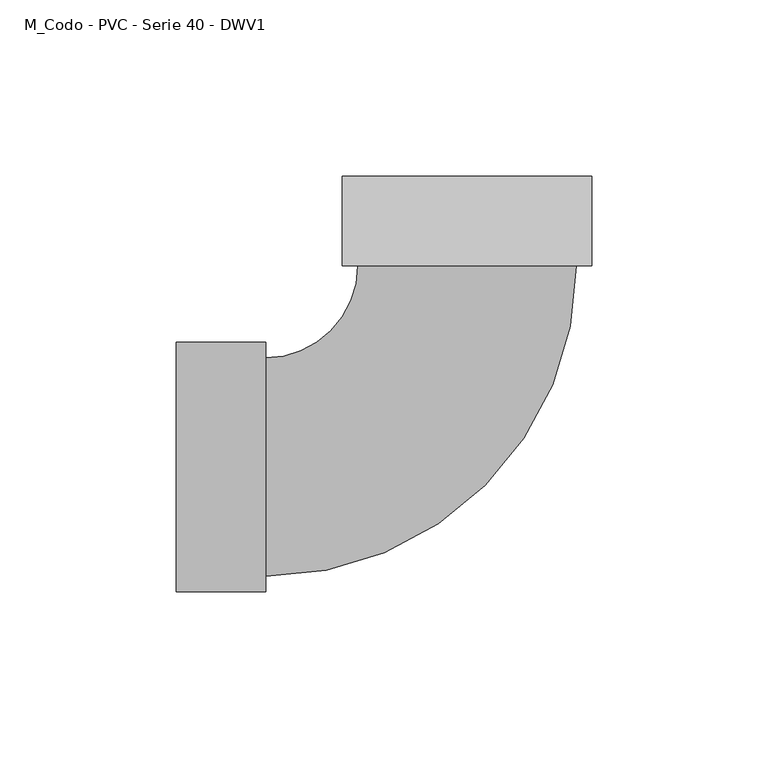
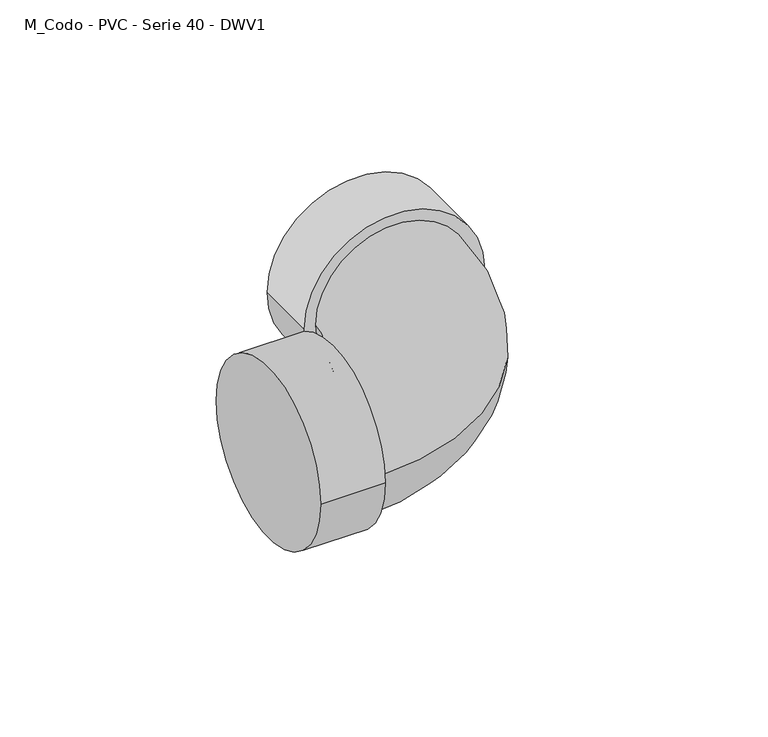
"""IFC4 building model written with IfcOpenShell, lengths in millimetres: pipe fitting geometry, M_Codo - PVC - Serie 40 - DWV1 : Estándar 2."""

from ifc_helpers import new_model, si_unit, point, frame, origin, place, context, project, spatial, circle_curve, ellipse_curve, trimmed, source, transform, mapped, element, save
from ifc_brep_helpers import plane_surface, cylinder_surface, revolved_surface, advanced_brep


def m_codo_pvc_serie_40_dwv1_5c0ec739(model_context):
    return source(origin(), model_context, "Body", "AdvancedBrep", [
        advanced_brep(
        [(-82.5420625, -35.4191094, 0.0), (-82.5420625, 35.4191094, 0.0), (-57.1420625, -35.4191094, 0.0), (-57.1420625, 35.4191094, 0.0), (-57.1420625, -30.9800625, 0.0), (-57.1420625, 30.9800625, 0.0), (-30.9800625, 57.1420625, 0.0), (30.9800625, 57.1420625, 0.0), (35.4191094, 57.1420625, 0.0), (-35.4191094, 57.1420625, 0.0), (35.4191094, 82.5420625, 0.0), (-35.4191094, 82.5420625, 0.0)],
        [
            (0, 1, circle_curve(frame((-82.5420625, 0.0, 0.0), z_axis=(-1.0, 0.0, 0.0), x_axis=(0.0, 1.0, 0.0)), 35.4191094)),
            (1, 0, circle_curve(frame((-82.5420625, 0.0, 0.0), z_axis=(-1.0, 0.0, 0.0), x_axis=(0.0, 1.0, 0.0)), 35.4191094)),
            (2, 3, circle_curve(frame((-57.1420625, 0.0, 0.0), z_axis=(1.0, 0.0, 0.0), x_axis=(0.0, 1.0, 0.0)), 35.4191094)),
            (3, 2, circle_curve(frame((-57.1420625, 0.0, 0.0), z_axis=(1.0, 0.0, 0.0), x_axis=(0.0, 1.0, 0.0)), 35.4191094)),
            (4, 5, circle_curve(frame((-57.1420625, 0.0, 0.0), z_axis=(-1.0, 0.0, 0.0), x_axis=(0.0, 1.0, 0.0)), 30.9800625)),
            (5, 4, circle_curve(frame((-57.1420625, 0.0, 0.0), z_axis=(-1.0, 0.0, 0.0), x_axis=(0.0, 1.0, 0.0)), 30.9800625)),
            (0, 2),
            (3, 1),
            (6, 5, circle_curve(frame((-57.1420625, 57.1420625, 0.0), z_axis=(0.0, 0.0, -1.0), x_axis=(0.0, -1.0, 0.0)), 26.162)),
            (4, 7, circle_curve(frame((-57.1420625, 57.1420625, 0.0), z_axis=(0.0, 0.0, 1.0), x_axis=(0.0, -1.0, 0.0)), 88.122125)),
            (7, 6, circle_curve(frame((0.0, 57.1420625, 0.0), z_axis=(0.0, -1.0, 0.0), x_axis=(-1.0, 0.0, 0.0)), 30.9800625)),
            (6, 7, circle_curve(frame((0.0, 57.1420625, 0.0), z_axis=(0.0, -1.0, 0.0), x_axis=(-1.0, 0.0, 0.0)), 30.9800625)),
            (8, 9, circle_curve(frame((0.0, 57.1420625, 0.0), z_axis=(0.0, -1.0, 0.0), x_axis=(-1.0, 0.0, 0.0)), 35.4191094)),
            (9, 8, circle_curve(frame((0.0, 57.1420625, 0.0), z_axis=(0.0, -1.0, 0.0), x_axis=(-1.0, 0.0, 0.0)), 35.4191094)),
            (10, 11, circle_curve(frame((0.0, 82.5420625, 0.0), z_axis=(0.0, 1.0, 0.0), x_axis=(-1.0, 0.0, 0.0)), 35.4191094)),
            (11, 10, circle_curve(frame((0.0, 82.5420625, 0.0), z_axis=(0.0, 1.0, 0.0), x_axis=(-1.0, 0.0, 0.0)), 35.4191094)),
            (8, 10),
            (11, 9),
        ],
        [
            plane_surface(frame((-82.5420625, 0.0, 0.0), z_axis=(-1.0, 0.0, 0.0), x_axis=(0.0, 0.0, 1.0))),
            plane_surface(frame((-57.1420625, 0.0, 0.0), z_axis=(1.0, 0.0, 0.0), x_axis=(0.0, 0.0, 1.0))),
            cylinder_surface(frame((-82.5420625, 0.0, 0.0), z_axis=(-1.0, 0.0, 0.0), x_axis=(0.0, 1.0, 0.0)), 35.4191094),
            revolved_surface(trimmed(ellipse_curve(frame((-57.1420625, 0.0, 0.0), z_axis=(-1.0, 0.0, 0.0), x_axis=(0.0, 1.0, 0.0)), 30.9800625, 30.9800625), [point((-57.1420625, -30.9800625, 0.0))], [point((-57.1420625, 30.9800625, 0.0))], True, "CARTESIAN"), (-57.1420625, 57.1420625, 0.0), (0.0, 0.0, 1.0)),
            revolved_surface(trimmed(ellipse_curve(frame((-57.1420625, 0.0, 0.0), z_axis=(-1.0, 0.0, 0.0), x_axis=(0.0, 1.0, 0.0)), 30.9800625, 30.9800625), [point((-57.1420625, 30.9800625, 0.0))], [point((-57.1420625, -30.9800625, 0.0))], True, "CARTESIAN"), (-57.1420625, 57.1420625, 0.0), (0.0, 0.0, 1.0)),
            plane_surface(frame((0.0, 57.1420625, 0.0), z_axis=(0.0, -1.0, 0.0), x_axis=(0.0, 0.0, 1.0))),
            plane_surface(frame((0.0, 82.5420625, 0.0), z_axis=(0.0, 1.0, 0.0), x_axis=(0.0, 0.0, 1.0))),
            cylinder_surface(frame((0.0, 57.1420625, 0.0), z_axis=(0.0, -1.0, 0.0), x_axis=(-1.0, 0.0, 0.0)), 35.4191094),
        ],
        [
            (0, [[1, 2]]),
            (1, [[3, 4], [5, 6]]),
            (2, [[-1, 7, -4, 8]]),
            (2, [[-2, -8, -3, -7]]),
            (3, [[9, -5, 10, 11]]),
            (4, [[-9, 12, -10, -6]]),
            (5, [[13, 14], [-11, -12]]),
            (6, [[15, 16]]),
            (7, [[-13, 17, -16, 18]]),
            (7, [[-14, -18, -15, -17]]),
        ],
    ),
    ])


if __name__ == "__main__":
    model = new_model("IFC4")
    model_context = context("Model", 3, world=origin())
    ifc_project = project(units=[si_unit("LENGTHUNIT", "METRE", prefix="MILLI")], contexts=[model_context])
    site = spatial("IfcSite", under=ifc_project)
    building = spatial("IfcBuilding", under=site)
    placement = place(None, origin())
    m_codo_pvc_serie_40_dwv1_shape = m_codo_pvc_serie_40_dwv1_5c0ec739(model_context)
    element("IfcPipeFitting", 1, ObjectType="M_Codo - PVC - Serie 40 - DWV1 : Estándar 2", at=placement, inside=building, context=model_context, shape_type="MappedRepresentation", body=[
        mapped(m_codo_pvc_serie_40_dwv1_shape, transform((0.0, 0.0, 0.0), x_axis=(1.0, 0.0, 0.0), y_axis=(0.0, 1.0, 0.0), z_axis=(0.0, 0.0, 1.0))),
    ])
    save(model, "model.ifc")
